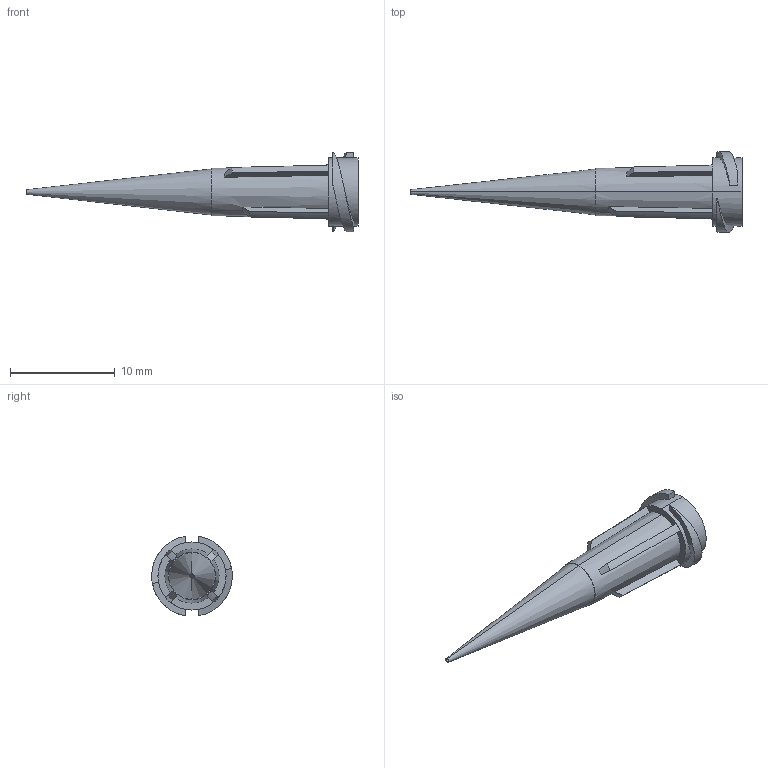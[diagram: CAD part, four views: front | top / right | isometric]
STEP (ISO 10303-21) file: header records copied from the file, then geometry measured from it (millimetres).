
FILE_DESCRIPTION (( 'STEP AP214' ), '1' );
FILE_NAME ('8001275_CUS.STEP', '2022-05-31T13:48:45', ( '' ), ( '' ), 'SwSTEP 2.0', 'SolidWorks 2020', '' );
FILE_SCHEMA (( 'AUTOMOTIVE_DESIGN' ));
Length unit declared in the file: millimetre
Products named in the file (1): 8001275_CUS
Bounding box: 31.7 x 7.69 x 7.59 mm (x, y, z)
Volume: 223.1 mm3; surface area: 749.4 mm2
Topology: 3 solids, 3 shells, 55 faces, 126 edges, 82 vertices
Faces by surface type: plane 25, cone 20, bspline 6, cylinder 4
Entity records: 1824 total; most frequent: CARTESIAN_POINT 554, DIRECTION 254, ORIENTED_EDGE 252, EDGE_CURVE 126, AXIS2_PLACEMENT_3D 100, VERTEX_POINT 82, EDGE_LOOP 62, FACE_OUTER_BOUND 55
